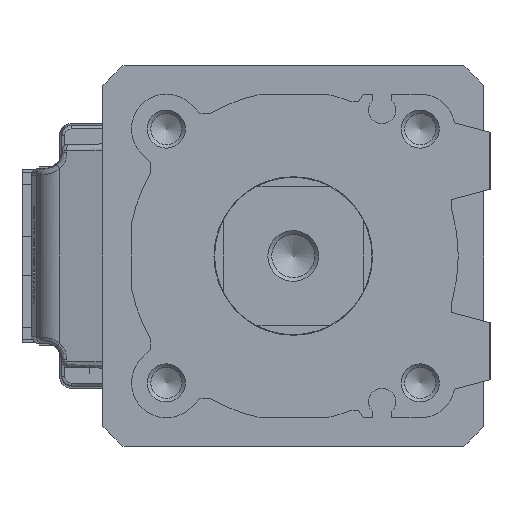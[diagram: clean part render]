
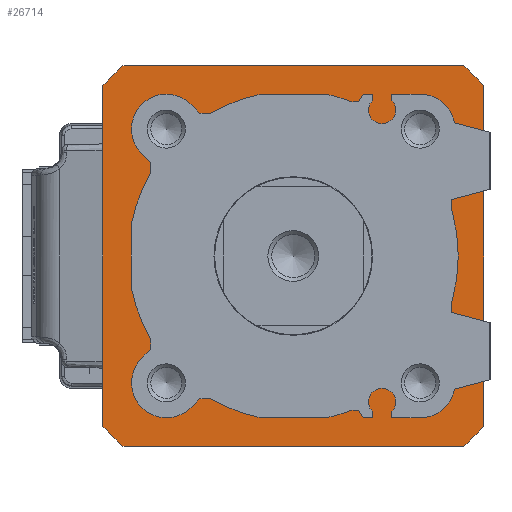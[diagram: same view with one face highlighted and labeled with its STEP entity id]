
A CAD part, left-side view. The second image highlights one B-rep face of the part: STEP entity #26714.
In plain terms, the highlighted planar face has unit normal (-1, 0, 0) as drawn and (0, 0, 1) by its records, which use the part's own axes.
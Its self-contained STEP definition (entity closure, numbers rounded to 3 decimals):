
#2231 = ORIENTED_EDGE ( 'NONE', *, *, #14478, .F. ) ;
#2702 = ORIENTED_EDGE ( 'NONE', *, *, #12421, .T. ) ;
#2903 = DIRECTION ( 'NONE',  ( 0., 1., 0. ) ) ;
#3222 = DIRECTION ( 'NONE',  ( 0., 0., 1. ) ) ;
#3340 = VERTEX_POINT ( 'NONE', #7795 ) ;
#5805 = CIRCLE ( 'NONE', #40849, 40.25 ) ;
#6298 = FACE_BOUND ( 'NONE', #29552, .T. ) ;
#7632 = CARTESIAN_POINT ( 'NONE',  ( -26.834, -30., 0. ) ) ;
#7785 = AXIS2_PLACEMENT_3D ( 'NONE', #23565, #19258, #31521 ) ;
#7795 = CARTESIAN_POINT ( 'NONE',  ( 30., 26.834, 0. ) ) ;
#8080 = DIRECTION ( 'NONE',  ( 0., -1., 0. ) ) ;
#8591 = CIRCLE ( 'NONE', #19182, 15.6 ) ;
#9316 = EDGE_CURVE ( 'NONE', #15997, #36740, #24369, .T. ) ;
#9401 = VERTEX_POINT ( 'NONE', #24901 ) ;
#10325 = ORIENTED_EDGE ( 'NONE', *, *, #20793, .T. ) ;
#10414 = CARTESIAN_POINT ( 'NONE',  ( 0., 0., 0. ) ) ;
#10486 = EDGE_CURVE ( 'NONE', #44236, #33870, #17559, .T. ) ;
#10644 = CARTESIAN_POINT ( 'NONE',  ( -15.6, 0., 0. ) ) ;
#11172 = DIRECTION ( 'NONE',  ( 1., 0., 0. ) ) ;
#11878 = DIRECTION ( 'NONE',  ( 1., 0., 0. ) ) ;
#11910 = CARTESIAN_POINT ( 'NONE',  ( -30., 26.834, 0. ) ) ;
#12421 = EDGE_CURVE ( 'NONE', #36740, #45721, #42627, .T. ) ;
#14478 = EDGE_CURVE ( 'NONE', #15243, #46919, #8591, .T. ) ;
#15243 = VERTEX_POINT ( 'NONE', #21425 ) ;
#15309 = VERTEX_POINT ( 'NONE', #19065 ) ;
#15997 = VERTEX_POINT ( 'NONE', #24969 ) ;
#17559 = LINE ( 'NONE', #33175, #43334 ) ;
#17760 = ORIENTED_EDGE ( 'NONE', *, *, #48619, .F. ) ;
#19065 = CARTESIAN_POINT ( 'NONE',  ( -30., -26.834, 0. ) ) ;
#19164 = VECTOR ( 'NONE', #8080, 1000. ) ;
#19182 = AXIS2_PLACEMENT_3D ( 'NONE', #50285, #3222, #11878 ) ;
#19258 = DIRECTION ( 'NONE',  ( 0., 0., 1. ) ) ;
#20083 = DIRECTION ( 'NONE',  ( 0., 0., 1. ) ) ;
#20548 = AXIS2_PLACEMENT_3D ( 'NONE', #28247, #20083, #35692 ) ;
#20660 = AXIS2_PLACEMENT_3D ( 'NONE', #47349, #27358, #27613 ) ;
#20793 = EDGE_CURVE ( 'NONE', #9401, #3340, #50210, .T. ) ;
#21069 = AXIS2_PLACEMENT_3D ( 'NONE', #10414, #50048, #22387 ) ;
#21425 = CARTESIAN_POINT ( 'NONE',  ( 15.6, 0., 0. ) ) ;
#21625 = FACE_OUTER_BOUND ( 'NONE', #42069, .T. ) ;
#21899 = EDGE_CURVE ( 'NONE', #33870, #9401, #26298, .T. ) ;
#22215 = EDGE_CURVE ( 'NONE', #3340, #15997, #23045, .T. ) ;
#22359 = DIRECTION ( 'NONE',  ( 1., 0., 0. ) ) ;
#22387 = DIRECTION ( 'NONE',  ( 1., 0., 0. ) ) ;
#22883 = DIRECTION ( 'NONE',  ( 0., 0., 1. ) ) ;
#22987 = CARTESIAN_POINT ( 'NONE',  ( -26.834, 30., 0. ) ) ;
#23045 = CIRCLE ( 'NONE', #20660, 40.25 ) ;
#23565 = CARTESIAN_POINT ( 'NONE',  ( 0., 0., 0. ) ) ;
#24369 = LINE ( 'NONE', #47985, #36689 ) ;
#24901 = CARTESIAN_POINT ( 'NONE',  ( 30., -26.834, 0. ) ) ;
#24969 = CARTESIAN_POINT ( 'NONE',  ( 26.834, 30., 0. ) ) ;
#25677 = CARTESIAN_POINT ( 'NONE',  ( 0., 0., 0. ) ) ;
#26242 = ORIENTED_EDGE ( 'NONE', *, *, #35332, .T. ) ;
#26298 = CIRCLE ( 'NONE', #50070, 40.25 ) ;
#26714 = ADVANCED_FACE ( 'NONE', ( #6298, #21625 ), #33346, .T. ) ;
#27358 = DIRECTION ( 'NONE',  ( 0., 0., 1. ) ) ;
#27613 = DIRECTION ( 'NONE',  ( 1., 0., 0. ) ) ;
#28247 = CARTESIAN_POINT ( 'NONE',  ( 0., 0., 0. ) ) ;
#29324 = ORIENTED_EDGE ( 'NONE', *, *, #29382, .T. ) ;
#29382 = EDGE_CURVE ( 'NONE', #15309, #44236, #5805, .T. ) ;
#29552 = EDGE_LOOP ( 'NONE', ( #17760, #2231 ) ) ;
#30418 = ORIENTED_EDGE ( 'NONE', *, *, #10486, .T. ) ;
#31521 = DIRECTION ( 'NONE',  ( 1., 0., 0. ) ) ;
#33175 = CARTESIAN_POINT ( 'NONE',  ( -26.834, -30., 0. ) ) ;
#33346 = PLANE ( 'NONE',  #7785 ) ;
#33870 = VERTEX_POINT ( 'NONE', #35743 ) ;
#33942 = DIRECTION ( 'NONE',  ( 1., 0., 0. ) ) ;
#34056 = CARTESIAN_POINT ( 'NONE',  ( 30., -26.834, 0. ) ) ;
#34901 = ORIENTED_EDGE ( 'NONE', *, *, #21899, .T. ) ;
#35332 = EDGE_CURVE ( 'NONE', #45721, #15309, #47454, .T. ) ;
#35692 = DIRECTION ( 'NONE',  ( 1., 0., 0. ) ) ;
#35743 = CARTESIAN_POINT ( 'NONE',  ( 26.834, -30., 0. ) ) ;
#36689 = VECTOR ( 'NONE', #38992, 1000. ) ;
#36740 = VERTEX_POINT ( 'NONE', #22987 ) ;
#38992 = DIRECTION ( 'NONE',  ( -1., 0., 0. ) ) ;
#40849 = AXIS2_PLACEMENT_3D ( 'NONE', #47205, #22883, #11172 ) ;
#41491 = CIRCLE ( 'NONE', #21069, 15.6 ) ;
#42069 = EDGE_LOOP ( 'NONE', ( #2702, #26242, #29324, #30418, #34901, #10325, #49710, #46236 ) ) ;
#42611 = CARTESIAN_POINT ( 'NONE',  ( -30., 26.834, 0. ) ) ;
#42627 = CIRCLE ( 'NONE', #20548, 40.25 ) ;
#43334 = VECTOR ( 'NONE', #33942, 1000. ) ;
#44236 = VERTEX_POINT ( 'NONE', #7632 ) ;
#45721 = VERTEX_POINT ( 'NONE', #42611 ) ;
#46236 = ORIENTED_EDGE ( 'NONE', *, *, #9316, .T. ) ;
#46919 = VERTEX_POINT ( 'NONE', #10644 ) ;
#47205 = CARTESIAN_POINT ( 'NONE',  ( 0., 0., 0. ) ) ;
#47349 = CARTESIAN_POINT ( 'NONE',  ( 0., 0., 0. ) ) ;
#47454 = LINE ( 'NONE', #11910, #19164 ) ;
#47489 = VECTOR ( 'NONE', #2903, 1000. ) ;
#47985 = CARTESIAN_POINT ( 'NONE',  ( 26.834, 30., 0. ) ) ;
#48619 = EDGE_CURVE ( 'NONE', #46919, #15243, #41491, .T. ) ;
#49540 = DIRECTION ( 'NONE',  ( 0., 0., 1. ) ) ;
#49710 = ORIENTED_EDGE ( 'NONE', *, *, #22215, .T. ) ;
#50048 = DIRECTION ( 'NONE',  ( 0., 0., 1. ) ) ;
#50070 = AXIS2_PLACEMENT_3D ( 'NONE', #25677, #49540, #22359 ) ;
#50210 = LINE ( 'NONE', #34056, #47489 ) ;
#50285 = CARTESIAN_POINT ( 'NONE',  ( 0., 0., 0. ) ) ;
